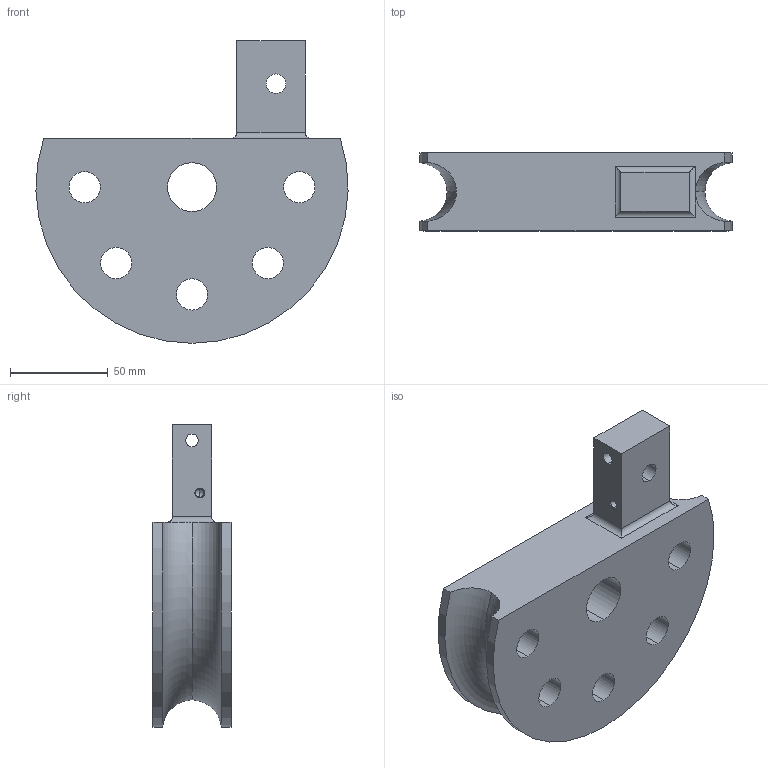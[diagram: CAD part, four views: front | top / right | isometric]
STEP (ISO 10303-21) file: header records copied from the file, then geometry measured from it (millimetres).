
FILE_DESCRIPTION (( 'STEP AP214' ), '1' );
FILE_NAME ('Biegematrize 30160.STEP', '2016-12-28T08:43:12', ( '' ), ( '' ), 'SwSTEP 2.0', 'SolidWorks 2016', '' );
FILE_SCHEMA (( 'AUTOMOTIVE_DESIGN' ));
Length unit declared in the file: millimetre
Products named in the file (1): Biegematrize 30160
Bounding box: 159.95 x 40 x 155 mm (x, y, z)
Volume: 440821.3 mm3; surface area: 65501.7 mm2
Topology: 1 solids, 1 shells, 38 faces, 97 edges, 61 vertices
Faces by surface type: cylinder 24, plane 8, cone 4, torus 2
Entity records: 1326 total; most frequent: CARTESIAN_POINT 307, DIRECTION 208, ORIENTED_EDGE 190, EDGE_CURVE 95, AXIS2_PLACEMENT_3D 82, VERTEX_POINT 61, EDGE_LOOP 56, VECTOR 44
